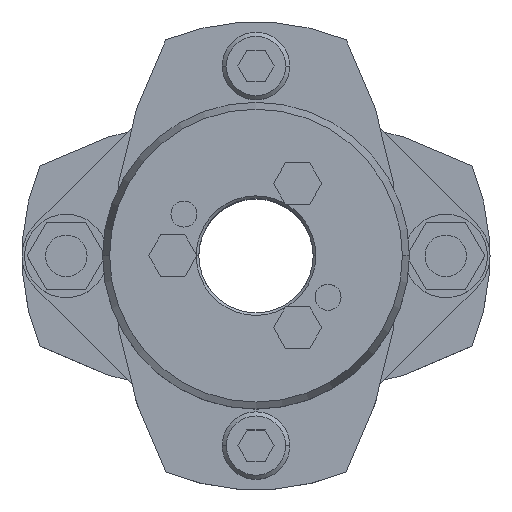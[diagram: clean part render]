
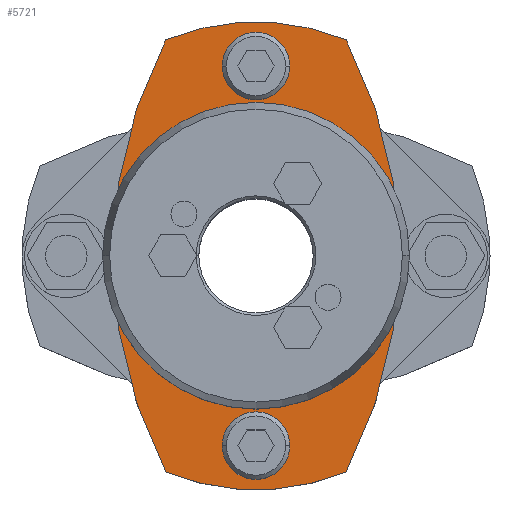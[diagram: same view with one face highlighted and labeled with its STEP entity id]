
A CAD part, top view. The second image highlights one B-rep face of the part: STEP entity #5721.
In plain terms, the highlighted planar face has unit normal (0, 0, 1).
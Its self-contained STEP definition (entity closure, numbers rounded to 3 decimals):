
#771=CARTESIAN_POINT('',(27.5,0.,14.25));
#772=VERTEX_POINT('',#771);
#781=CARTESIAN_POINT('',(17.35,-41.521,14.25));
#782=VERTEX_POINT('',#781);
#783=CARTESIAN_POINT('',(-62.5,0.,14.25));
#784=DIRECTION('',(0.0,0.0,-1.0));
#785=DIRECTION('',(-1.0,0.0,0.0));
#786=AXIS2_PLACEMENT_3D('',#783,#784,#785);
#787=CIRCLE('',#786,90.);
#788=EDGE_CURVE('',#772,#782,#787,.T.);
#815=CARTESIAN_POINT('',(-27.5,0.,14.25));
#816=VERTEX_POINT('',#815);
#832=CARTESIAN_POINT('',(-17.35,-41.521,14.25));
#833=VERTEX_POINT('',#832);
#840=CARTESIAN_POINT('',(62.5,0.,14.25));
#841=DIRECTION('',(0.0,0.0,-1.0));
#842=DIRECTION('',(-1.0,0.0,0.0));
#843=AXIS2_PLACEMENT_3D('',#840,#841,#842);
#844=CIRCLE('',#843,90.);
#845=EDGE_CURVE('',#833,#816,#844,.T.);
#1106=CARTESIAN_POINT('',(-20.5,0.,14.25));
#1107=VERTEX_POINT('',#1106);
#1157=CARTESIAN_POINT('',(20.5,0.,14.25));
#1158=VERTEX_POINT('',#1157);
#1165=CARTESIAN_POINT('',(0.,0.,14.25));
#1166=DIRECTION('',(0.0,0.0,-1.0));
#1167=DIRECTION('',(-1.0,0.0,0.0));
#1168=AXIS2_PLACEMENT_3D('',#1165,#1166,#1167);
#1169=CIRCLE('',#1168,20.5);
#1170=EDGE_CURVE('',#1107,#1158,#1169,.T.);
#1182=CARTESIAN_POINT('',(-6.5,-36.5,14.25));
#1183=VERTEX_POINT('',#1182);
#1199=CARTESIAN_POINT('',(6.5,-36.5,14.25));
#1200=VERTEX_POINT('',#1199);
#1207=CARTESIAN_POINT('',(0.,-36.5,14.25));
#1208=DIRECTION('',(0.0,0.0,-1.0));
#1209=DIRECTION('',(-1.0,0.0,0.0));
#1210=AXIS2_PLACEMENT_3D('',#1207,#1208,#1209);
#1211=CIRCLE('',#1210,6.5);
#1212=EDGE_CURVE('',#1183,#1200,#1211,.T.);
#1256=CARTESIAN_POINT('',(-6.5,36.5,14.25));
#1257=VERTEX_POINT('',#1256);
#1273=CARTESIAN_POINT('',(6.5,36.5,14.25));
#1274=VERTEX_POINT('',#1273);
#1281=CARTESIAN_POINT('',(0.,36.5,14.25));
#1282=DIRECTION('',(0.0,0.0,-1.0));
#1283=DIRECTION('',(-1.0,0.0,0.0));
#1284=AXIS2_PLACEMENT_3D('',#1281,#1282,#1283);
#1285=CIRCLE('',#1284,6.5);
#1286=EDGE_CURVE('',#1257,#1274,#1285,.T.);
#5143=CARTESIAN_POINT('',(0.,36.5,14.25));
#5144=DIRECTION('',(0.0,0.0,-1.0));
#5145=DIRECTION('',(-1.0,0.0,0.0));
#5146=AXIS2_PLACEMENT_3D('',#5143,#5144,#5145);
#5147=CIRCLE('',#5146,6.5);
#5148=EDGE_CURVE('',#1274,#1257,#5147,.T.);
#5203=CARTESIAN_POINT('',(0.,-36.5,14.25));
#5204=DIRECTION('',(0.0,0.0,-1.0));
#5205=DIRECTION('',(-1.0,0.0,0.0));
#5206=AXIS2_PLACEMENT_3D('',#5203,#5204,#5205);
#5207=CIRCLE('',#5206,6.5);
#5208=EDGE_CURVE('',#1200,#1183,#5207,.T.);
#5407=CARTESIAN_POINT('',(0.,0.,14.25));
#5408=DIRECTION('',(0.0,0.0,-1.0));
#5409=DIRECTION('',(-1.0,0.0,0.0));
#5410=AXIS2_PLACEMENT_3D('',#5407,#5408,#5409);
#5411=CIRCLE('',#5410,20.5);
#5412=EDGE_CURVE('',#1158,#1107,#5411,.T.);
#5615=CARTESIAN_POINT('',(0.,0.,14.25));
#5616=DIRECTION('',(0.0,0.0,-1.0));
#5617=DIRECTION('',(-1.0,0.0,0.0));
#5618=AXIS2_PLACEMENT_3D('',#5615,#5616,#5617);
#5619=CIRCLE('',#5618,45.);
#5620=EDGE_CURVE('',#782,#833,#5619,.T.);
#5634=CARTESIAN_POINT('',(-17.35,41.521,14.25));
#5635=VERTEX_POINT('',#5634);
#5636=CARTESIAN_POINT('',(62.5,0.,14.25));
#5637=DIRECTION('',(0.0,0.0,-1.0));
#5638=DIRECTION('',(-1.0,0.0,0.0));
#5639=AXIS2_PLACEMENT_3D('',#5636,#5637,#5638);
#5640=CIRCLE('',#5639,90.);
#5641=EDGE_CURVE('',#816,#5635,#5640,.T.);
#5658=CARTESIAN_POINT('',(17.35,41.521,14.25));
#5659=VERTEX_POINT('',#5658);
#5660=CARTESIAN_POINT('',(0.,0.,14.25));
#5661=DIRECTION('',(0.0,0.0,-1.0));
#5662=DIRECTION('',(-1.0,0.0,0.0));
#5663=AXIS2_PLACEMENT_3D('',#5660,#5661,#5662);
#5664=CIRCLE('',#5663,45.);
#5665=EDGE_CURVE('',#5635,#5659,#5664,.T.);
#5686=CARTESIAN_POINT('',(-62.5,0.,14.25));
#5687=DIRECTION('',(0.0,0.0,-1.0));
#5688=DIRECTION('',(-1.0,0.0,0.0));
#5689=AXIS2_PLACEMENT_3D('',#5686,#5687,#5688);
#5690=CIRCLE('',#5689,90.);
#5691=EDGE_CURVE('',#5659,#772,#5690,.T.);
#5696=CARTESIAN_POINT('',(0.,0.,14.25));
#5697=DIRECTION('',(0.0,0.0,1.0));
#5698=DIRECTION('',(-1.0,0.0,0.0));
#5699=AXIS2_PLACEMENT_3D('',#5696,#5697,#5698);
#5700=PLANE('',#5699);
#5701=ORIENTED_EDGE('',*,*,#5620,.F.);
#5702=ORIENTED_EDGE('',*,*,#788,.F.);
#5703=ORIENTED_EDGE('',*,*,#5691,.F.);
#5704=ORIENTED_EDGE('',*,*,#5665,.F.);
#5705=ORIENTED_EDGE('',*,*,#5641,.F.);
#5706=ORIENTED_EDGE('',*,*,#845,.F.);
#5707=EDGE_LOOP('',(#5701,#5702,#5703,#5704,#5705,#5706));
#5708=FACE_OUTER_BOUND('',#5707,.T.);
#5709=ORIENTED_EDGE('',*,*,#1286,.T.);
#5710=ORIENTED_EDGE('',*,*,#5148,.T.);
#5711=EDGE_LOOP('',(#5709,#5710));
#5712=FACE_BOUND('',#5711,.T.);
#5713=ORIENTED_EDGE('',*,*,#1212,.T.);
#5714=ORIENTED_EDGE('',*,*,#5208,.T.);
#5715=EDGE_LOOP('',(#5713,#5714));
#5716=FACE_BOUND('',#5715,.T.);
#5717=ORIENTED_EDGE('',*,*,#1170,.T.);
#5718=ORIENTED_EDGE('',*,*,#5412,.T.);
#5719=EDGE_LOOP('',(#5717,#5718));
#5720=FACE_BOUND('',#5719,.T.);
#5721=ADVANCED_FACE('',(#5708,#5712,#5716,#5720),#5700,.T.);
